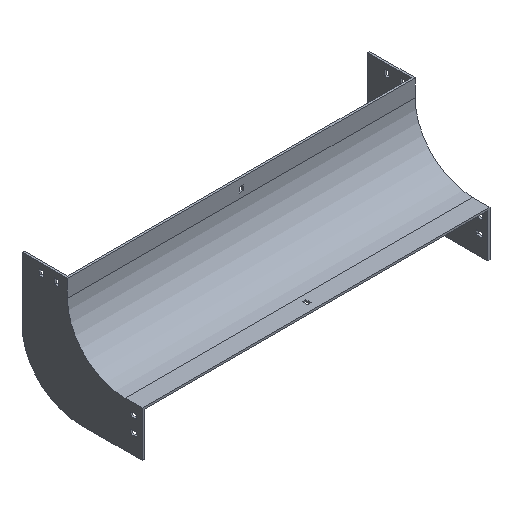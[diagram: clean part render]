
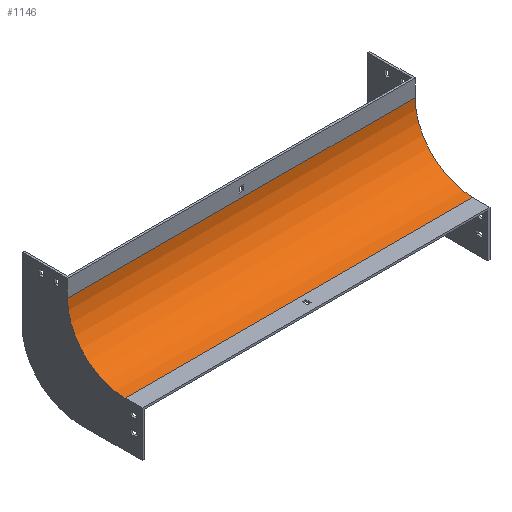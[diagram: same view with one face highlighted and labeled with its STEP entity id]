
A CAD part, isometric view. The second image highlights one B-rep face of the part: STEP entity #1146.
In plain terms, the highlighted cylindrical face has radius 100 mm (diameter 200 mm), a partial arc.
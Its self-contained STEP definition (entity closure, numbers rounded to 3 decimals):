
#97 = EDGE_CURVE ( 'NONE', #397, #1009, #141, .T. ) ;
#106 = DIRECTION ( 'NONE',  ( 0., 0., 1. ) ) ;
#135 = VERTEX_POINT ( 'NONE', #771 ) ;
#141 = LINE ( 'NONE', #478, #1279 ) ;
#147 = CARTESIAN_POINT ( 'NONE',  ( 302., 0., -30. ) ) ;
#263 = CARTESIAN_POINT ( 'NONE',  ( -302., 0., -30. ) ) ;
#278 = EDGE_CURVE ( 'NONE', #135, #397, #1467, .T. ) ;
#397 = VERTEX_POINT ( 'NONE', #1645 ) ;
#409 = AXIS2_PLACEMENT_3D ( 'NONE', #1150, #566, #106 ) ;
#478 = CARTESIAN_POINT ( 'NONE',  ( 302., -100., -130. ) ) ;
#494 = DIRECTION ( 'NONE',  ( -1., 0., 0. ) ) ;
#566 = DIRECTION ( 'NONE',  ( -1., 0., 0. ) ) ;
#581 = EDGE_LOOP ( 'NONE', ( #983, #638, #1261, #1616 ) ) ;
#626 = AXIS2_PLACEMENT_3D ( 'NONE', #957, #1845, #1087 ) ;
#638 = ORIENTED_EDGE ( 'NONE', *, *, #97, .F. ) ;
#695 = CYLINDRICAL_SURFACE ( 'NONE', #409, 100. ) ;
#771 = CARTESIAN_POINT ( 'NONE',  ( 302., 0., -30. ) ) ;
#792 = CARTESIAN_POINT ( 'NONE',  ( -302., -100., -130. ) ) ;
#861 = EDGE_CURVE ( 'NONE', #1627, #1009, #910, .T. ) ;
#910 = CIRCLE ( 'NONE', #1249, 100. ) ;
#957 = CARTESIAN_POINT ( 'NONE',  ( 302., -100., -30. ) ) ;
#983 = ORIENTED_EDGE ( 'NONE', *, *, #861, .T. ) ;
#995 = FACE_OUTER_BOUND ( 'NONE', #581, .T. ) ;
#1009 = VERTEX_POINT ( 'NONE', #792 ) ;
#1059 = DIRECTION ( 'NONE',  ( -1., 0., 0. ) ) ;
#1087 = DIRECTION ( 'NONE',  ( 0., 0., 1. ) ) ;
#1146 = ADVANCED_FACE ( 'NONE', ( #995 ), #695, .F. ) ;
#1150 = CARTESIAN_POINT ( 'NONE',  ( 302., -100., -30. ) ) ;
#1175 = DIRECTION ( 'NONE',  ( -1., 0., 0. ) ) ;
#1249 = AXIS2_PLACEMENT_3D ( 'NONE', #1841, #494, #1690 ) ;
#1261 = ORIENTED_EDGE ( 'NONE', *, *, #278, .F. ) ;
#1279 = VECTOR ( 'NONE', #1059, 1000. ) ;
#1314 = VECTOR ( 'NONE', #1175, 1000. ) ;
#1371 = LINE ( 'NONE', #147, #1314 ) ;
#1467 = CIRCLE ( 'NONE', #626, 100. ) ;
#1616 = ORIENTED_EDGE ( 'NONE', *, *, #1877, .T. ) ;
#1627 = VERTEX_POINT ( 'NONE', #263 ) ;
#1645 = CARTESIAN_POINT ( 'NONE',  ( 302., -100., -130. ) ) ;
#1690 = DIRECTION ( 'NONE',  ( 0., 0., 1. ) ) ;
#1841 = CARTESIAN_POINT ( 'NONE',  ( -302., -100., -30. ) ) ;
#1845 = DIRECTION ( 'NONE',  ( -1., 0., 0. ) ) ;
#1877 = EDGE_CURVE ( 'NONE', #135, #1627, #1371, .T. ) ;
